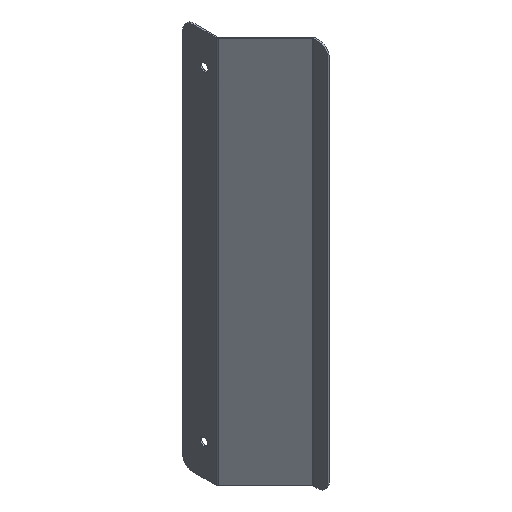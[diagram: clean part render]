
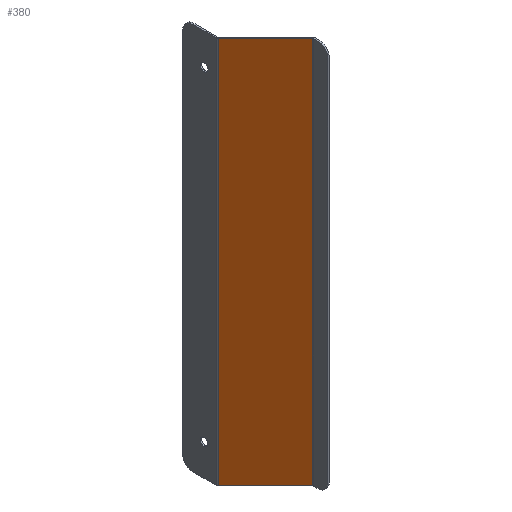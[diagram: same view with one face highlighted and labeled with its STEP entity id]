
A CAD part, isometric view. The second image highlights one B-rep face of the part: STEP entity #380.
In plain terms, the highlighted planar face has unit normal (-0.707, -0.707, 0).
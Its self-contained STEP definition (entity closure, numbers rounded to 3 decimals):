
#10 = EDGE_CURVE ( 'NONE', #379, #248, #279, .T. ) ;
#52 = LINE ( 'NONE', #845, #308 ) ;
#63 = ORIENTED_EDGE ( 'NONE', *, *, #171, .T. ) ;
#73 = FACE_OUTER_BOUND ( 'NONE', #389, .T. ) ;
#86 = LINE ( 'NONE', #362, #432 ) ;
#124 = CARTESIAN_POINT ( 'NONE',  ( 47.78, -84.902, 200. ) ) ;
#157 = DIRECTION ( 'NONE',  ( 0., 0., -1. ) ) ;
#162 = CARTESIAN_POINT ( 'NONE',  ( -0.841, -36.28, 200. ) ) ;
#171 = EDGE_CURVE ( 'NONE', #379, #815, #367, .T. ) ;
#212 = DIRECTION ( 'NONE',  ( 0.707, 0.707, 0. ) ) ;
#220 = VECTOR ( 'NONE', #483, 1000. ) ;
#222 = ORIENTED_EDGE ( 'NONE', *, *, #256, .T. ) ;
#248 = VERTEX_POINT ( 'NONE', #124 ) ;
#256 = EDGE_CURVE ( 'NONE', #815, #648, #52, .T. ) ;
#279 = LINE ( 'NONE', #339, #220 ) ;
#308 = VECTOR ( 'NONE', #792, 1000. ) ;
#327 = CARTESIAN_POINT ( 'NONE',  ( -0.841, -36.28, -200. ) ) ;
#333 = PLANE ( 'NONE',  #487 ) ;
#339 = CARTESIAN_POINT ( 'NONE',  ( -1.061, -36.061, 200. ) ) ;
#362 = CARTESIAN_POINT ( 'NONE',  ( 47.78, -84.902, 200. ) ) ;
#367 = LINE ( 'NONE', #162, #687 ) ;
#379 = VERTEX_POINT ( 'NONE', #742 ) ;
#380 = ADVANCED_FACE ( 'NONE', ( #73 ), #333, .F. ) ;
#389 = EDGE_LOOP ( 'NONE', ( #222, #446, #747, #63 ) ) ;
#432 = VECTOR ( 'NONE', #157, 1000. ) ;
#444 = DIRECTION ( 'NONE',  ( 0., 0., -1. ) ) ;
#446 = ORIENTED_EDGE ( 'NONE', *, *, #849, .F. ) ;
#447 = CARTESIAN_POINT ( 'NONE',  ( 47.78, -84.902, -200. ) ) ;
#483 = DIRECTION ( 'NONE',  ( 0.707, -0.707, 0. ) ) ;
#487 = AXIS2_PLACEMENT_3D ( 'NONE', #618, #212, #667 ) ;
#618 = CARTESIAN_POINT ( 'NONE',  ( -1.061, -36.061, 200. ) ) ;
#648 = VERTEX_POINT ( 'NONE', #447 ) ;
#667 = DIRECTION ( 'NONE',  ( -0.707, 0.707, 0. ) ) ;
#687 = VECTOR ( 'NONE', #444, 1000. ) ;
#742 = CARTESIAN_POINT ( 'NONE',  ( -0.841, -36.28, 200. ) ) ;
#747 = ORIENTED_EDGE ( 'NONE', *, *, #10, .F. ) ;
#792 = DIRECTION ( 'NONE',  ( 0.707, -0.707, 0. ) ) ;
#815 = VERTEX_POINT ( 'NONE', #327 ) ;
#845 = CARTESIAN_POINT ( 'NONE',  ( -1.061, -36.061, -200. ) ) ;
#849 = EDGE_CURVE ( 'NONE', #248, #648, #86, .T. ) ;
